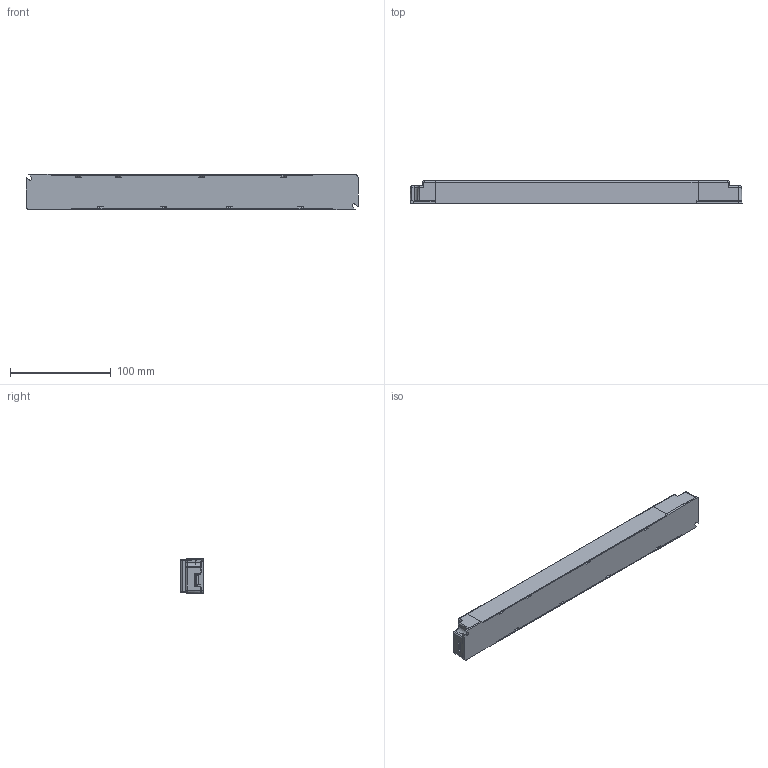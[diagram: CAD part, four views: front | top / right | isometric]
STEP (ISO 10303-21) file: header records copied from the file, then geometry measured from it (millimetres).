
FILE_DESCRIPTION((''),'2;1');
FILE_NAME('SLD-150_ASM','2022-09-09T17:09:34',('shalinice'),(''),'CREO PARAMETRIC BY PTC INC, 2016390','CREO PARAMETRIC BY PTC INC, 2016390','');
FILE_SCHEMA(('AUTOMOTIVE_DESIGN { 1 0 10303 214 1 1 1 1 }'));
Length unit declared in the file: millimetre
Products named in the file (4): SLD-150-D; SLD-150-R; SLD-150-T; SLD-150_ASM
Assembly tree (4 placements, depth 2):
  SLD-150_ASM
    SLD-150-D
    SLD-150-R  x2
    SLD-150-T
Bounding box: 330 x 22 x 35 mm (x, y, z)
Volume: 55484.1 mm3; surface area: 89905.9 mm2
Topology: 4 solids, 4 shells, 867 faces, 2364 edges, 1512 vertices
Faces by surface type: plane 636, cylinder 161, cone 42, sphere 18, torus 6, bspline 4
Entity records: 28993 total; most frequent: CARTESIAN_POINT 4979, ORIENTED_EDGE 4082, DIRECTION 3493, EDGE_CURVE 2041, VECTOR 1675, LINE 1675, VERTEX_POINT 1306, AXIS2_PLACEMENT_3D 909
